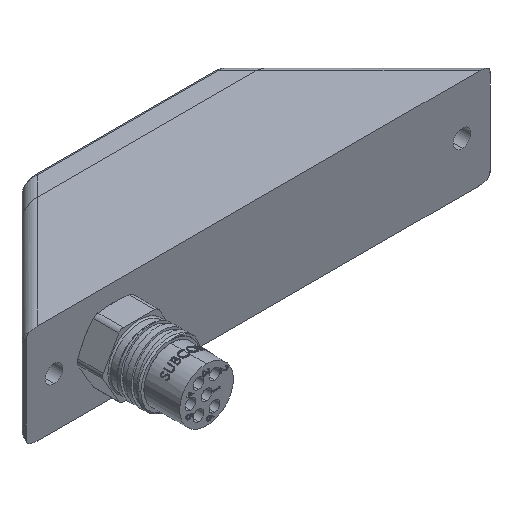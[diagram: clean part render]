
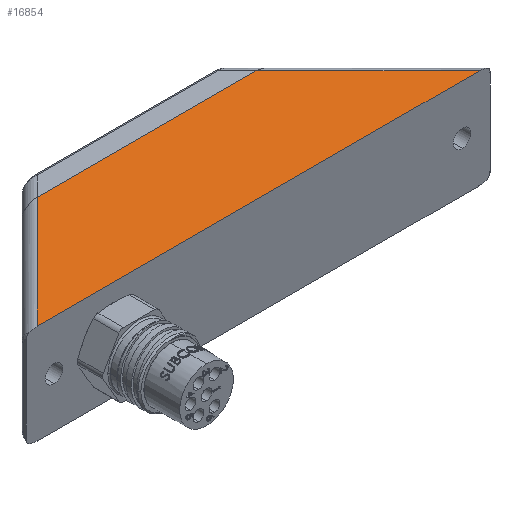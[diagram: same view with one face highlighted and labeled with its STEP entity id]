
A CAD part, isometric view. The second image highlights one B-rep face of the part: STEP entity #16854.
In plain terms, the highlighted planar face has unit normal (0, 0, 1).
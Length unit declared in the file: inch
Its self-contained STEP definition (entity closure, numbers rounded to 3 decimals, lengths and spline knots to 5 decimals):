
#252 = FACE_OUTER_BOUND ( 'NONE', #58454, .T. ) ;
#4802 = ORIENTED_EDGE ( 'NONE', *, *, #80977, .T. ) ;
#6517 = VECTOR ( 'NONE', #39158, 39.37008 ) ;
#7620 = VECTOR ( 'NONE', #64278, 39.37008 ) ;
#15213 = DIRECTION ( 'NONE',  ( 1., 0., 0. ) ) ;
#16854 = ADVANCED_FACE ( 'NONE', ( #252 ), #36082, .F. ) ;
#24395 = CARTESIAN_POINT ( 'NONE',  ( -2.57322, 0., 0.5795 ) ) ;
#24983 = LINE ( 'NONE', #39600, #6517 ) ;
#25173 = LINE ( 'NONE', #78939, #7620 ) ;
#25892 = CARTESIAN_POINT ( 'NONE',  ( 2.57322, 0., 0.5795 ) ) ;
#26391 = CARTESIAN_POINT ( 'NONE',  ( 1.27322, 1.3, 0.5795 ) ) ;
#29397 = DIRECTION ( 'NONE',  ( -1., 0., 0. ) ) ;
#30060 = LINE ( 'NONE', #84327, #34066 ) ;
#31865 = ORIENTED_EDGE ( 'NONE', *, *, #37720, .T. ) ;
#34066 = VECTOR ( 'NONE', #70530, 39.37008 ) ;
#35234 = LINE ( 'NONE', #56510, #42390 ) ;
#36082 = PLANE ( 'NONE',  #57784 ) ;
#37720 = EDGE_CURVE ( 'NONE', #65768, #80324, #24983, .T. ) ;
#39158 = DIRECTION ( 'NONE',  ( -0.707, -0.707, 0. ) ) ;
#39600 = CARTESIAN_POINT ( 'NONE',  ( 0.08839, 2.66161, 0.5795 ) ) ;
#42390 = VECTOR ( 'NONE', #15213, 39.37008 ) ;
#43759 = ORIENTED_EDGE ( 'NONE', *, *, #80825, .T. ) ;
#47698 = DIRECTION ( 'NONE',  ( 0., 0., -1. ) ) ;
#48932 = EDGE_CURVE ( 'NONE', #58145, #73577, #25173, .T. ) ;
#56510 = CARTESIAN_POINT ( 'NONE',  ( -2.75, 0., 0.5795 ) ) ;
#57784 = AXIS2_PLACEMENT_3D ( 'NONE', #63144, #47698, #29397 ) ;
#58037 = ORIENTED_EDGE ( 'NONE', *, *, #48932, .T. ) ;
#58145 = VERTEX_POINT ( 'NONE', #25892 ) ;
#58454 = EDGE_LOOP ( 'NONE', ( #43759, #31865, #4802, #58037 ) ) ;
#63144 = CARTESIAN_POINT ( 'NONE',  ( 0., 2.75, 0.5795 ) ) ;
#64278 = DIRECTION ( 'NONE',  ( -0.707, 0.707, 0. ) ) ;
#65768 = VERTEX_POINT ( 'NONE', #86794 ) ;
#70530 = DIRECTION ( 'NONE',  ( -1., 0., 0. ) ) ;
#73577 = VERTEX_POINT ( 'NONE', #26391 ) ;
#78939 = CARTESIAN_POINT ( 'NONE',  ( -0.08839, 2.66161, 0.5795 ) ) ;
#80324 = VERTEX_POINT ( 'NONE', #24395 ) ;
#80825 = EDGE_CURVE ( 'NONE', #73577, #65768, #30060, .T. ) ;
#80977 = EDGE_CURVE ( 'NONE', #80324, #58145, #35234, .T. ) ;
#84327 = CARTESIAN_POINT ( 'NONE',  ( -1.45, 1.3, 0.5795 ) ) ;
#86794 = CARTESIAN_POINT ( 'NONE',  ( -1.27322, 1.3, 0.5795 ) ) ;
